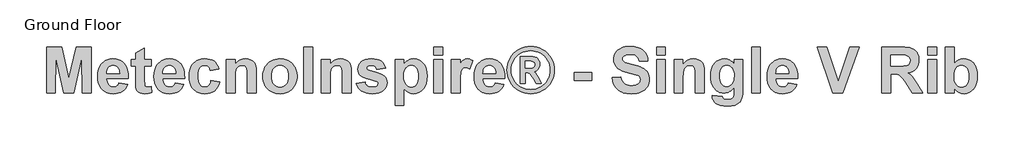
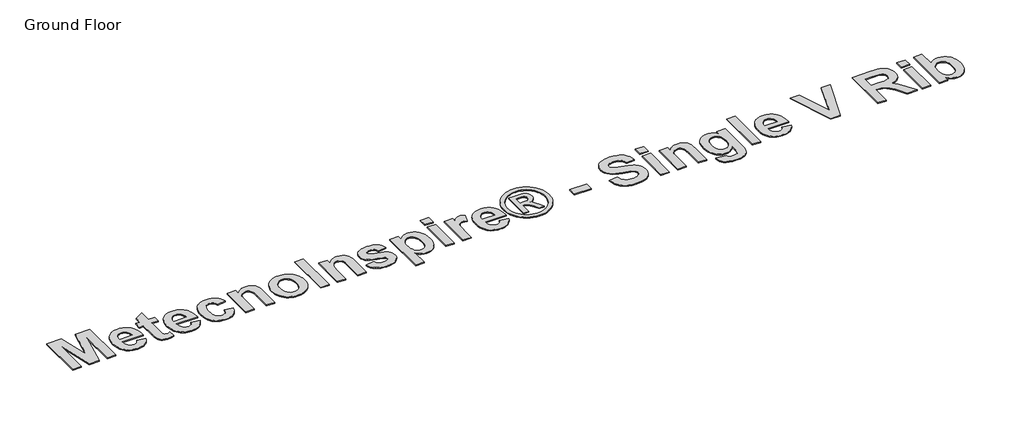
# One storey, part 11 of 14: 1 proxy.
"""IFC4 building model written with IfcOpenShell, lengths in millimetres."""

from ifc_helpers import new_model, si_unit, origin, origin_with_axes, place, context, project, spatial, polyline, outline, extrude, element, save

model = new_model("IFC4")

# Units and contexts
model_context = context("Model", 3, world=origin())
ifc_project = project(units=[si_unit("LENGTHUNIT", "METRE", prefix="MILLI")], contexts=[model_context])

# Site, building, storey
site = spatial("IfcSite", under=ifc_project)
building = spatial("IfcBuilding", under=site)
storey = spatial("IfcBuildingStorey", under=building, Name="Ground Floor", Elevation=0.0)

# Proxy
placement = place(None, origin())
element("IfcBuildingElementProxy", 1, Name="900mm Arial", ObjectType="900mm Arial", at=placement, inside=storey, context=model_context, shape_type="SweptSolid", body=[
    extrude(outline(polyline([(-961.6806462, -29419.7488861), (-961.6806462, -28497.7851027), (-660.7619114, -28497.7851027), (-515.3331003, -29126.6046475), (-369.9042893, -28497.7851027), (-68.9855544, -28497.7851027), (-68.9855544, -29419.7488861), (-244.5977036, -29419.7488861), (-251.9148765, -28693.9768007), (-412.4353566, -29419.7488861), (-618.0021824, -29419.7488861), (-778.7513241, -28693.9768007), (-786.068497, -29419.7488861), (-961.6806462, -29419.7488861)])), origin_with_axes(), (0.0, 0.0, 1.0), 20.0),
    extrude(outline(polyline([(487.1195848, -29214.8680454), (662.731734, -29244.1367369), (643.7528168, -29287.889715), (619.972005, -29326.0833567), (591.3892984, -29358.7176619), (558.0046971, -29385.7926307), (519.975406, -29407.0510187), (477.45863, -29422.2355816), (430.454369, -29431.3463193), (378.9626231, -29434.3832319), (337.8142441, -29432.5932399), (299.431242, -29427.2232639), (263.8136168, -29418.2733039), (230.9613684, -29405.7433599), (200.8744969, -29389.6334319), (173.5530023, -29369.9435199), (148.9968845, -29346.6736239), (127.2061436, -29319.8237439), (98.9950122, -29270.961607), (78.844204, -29216.0685191), (66.7537191, -29155.14448), (62.7235575, -29088.1894898), (68.0685237, -29009.2440543), (84.103422, -28939.330754), (96.1295958, -28907.7611545), (110.8282527, -28878.449589), (128.1993926, -28851.3960572), (148.2430156, -28826.6005592), (193.8324326, -28785.1842174), (218.7494071, -28768.9135117), (245.0812255, -28755.6011161), (272.8278879, -28745.2470306), (301.9893943, -28737.8512553), (364.556939, -28731.934635), (400.288895, -28733.4530913), (434.0843727, -28738.0084602), (465.9433721, -28745.6007416), (495.865893, -28756.2299356), (523.8519356, -28769.8960422), (549.9014998, -28786.5990614), (574.0145856, -28806.3389931), (596.1911931, -28829.1158374), (616.0168729, -28855.0296337), (633.0771759, -28884.1804216), (647.3721021, -28916.568201), (658.9016513, -28952.1929719), (667.6658237, -28991.0547344), (673.6646193, -29033.1534883), (677.3660798, -29127.0619708), (238.3357067, -29127.0619708), (241.6084266, -29166.3631923), (249.5972931, -29201.0340154), (262.3023062, -29231.07444), (279.7234659, -29256.4844662), (300.7174638, -29276.6924397), (324.1409919, -29291.1267065), (349.99405, -29299.7872666), (378.2766381, -29302.67412), (415.1483296, -29297.4720674), (445.7318257, -29281.8659096), (458.608335, -29269.8754642), (469.7984646, -29254.7123383), (487.1195848, -29214.8680454)]), holes=[polyline([(501.7539306, -29024.6215504), (498.6241242, -28987.5426343), (491.0639983, -28955.1941561), (479.0735529, -28927.5761159), (462.652788, -28904.6885136), (443.0164685, -28886.7314282), (421.3793597, -28873.9049386), (397.7414613, -28866.2090449), (372.1027735, -28863.6437469), (344.8634542, -28866.3448127), (320.0822476, -28874.44801), (297.7591537, -28887.9533389), (277.8941726, -28906.8607993), (261.7163607, -28930.512989), (250.2261127, -28958.0238441), (243.4234285, -28989.3933645), (241.3083082, -29024.6215504), (501.7539306, -29024.6215504)])]), origin_with_axes(), (0.0, 0.0, 1.0), 20.0),
    extrude(outline(polyline([(1131.0307986, -28746.5689808), (1131.0307986, -28878.2780927), (999.3216867, -28878.2780927), (999.3216867, -29167.07776), (1000.3220814, -29236.3908234), (1003.3232656, -29269.1751879), (1009.8687054, -29282.4375637), (1021.501867, -29293.1846614), (1037.2223556, -29300.3017553), (1056.0297765, -29302.67412), (1090.7863477, -29298.4438794), (1138.3479715, -29285.7531577), (1145.6651444, -29410.60242), (1112.8379059, -29421.0065252), (1077.9241298, -29428.4380289), (1001.8369649, -29434.3832319), (955.0756569, -29430.2673222), (913.1162436, -29417.9195929), (878.8455785, -29399.0550066), (855.1505147, -29375.3885255), (839.5157742, -29344.6906987), (829.4260788, -29304.7320749), (825.1386728, -29256.9989549), (823.7095375, -29176.910211), (823.7095375, -28878.2780927), (735.9034629, -28878.2780927), (735.9034629, -28746.5689808), (823.7095375, -28746.5689808), (823.7095375, -28614.8598689), (999.3216867, -28512.4194485), (999.3216867, -28746.5689808), (1131.0307986, -28746.5689808)])), origin_with_axes(), (0.0, 0.0, 1.0), 20.0),
    extrude(outline(polyline([(1613.9642089, -29214.8680454), (1789.5763582, -29244.1367369), (1770.597441, -29287.889715), (1746.8166291, -29326.0833567), (1718.2339225, -29358.7176619), (1684.8493213, -29385.7926307), (1646.8200302, -29407.0510187), (1604.3032541, -29422.2355816), (1557.2989932, -29431.3463193), (1505.8072472, -29434.3832319), (1464.6588683, -29432.5932399), (1426.2758662, -29427.2232639), (1390.658241, -29418.2733039), (1357.8059926, -29405.7433599), (1327.7191211, -29389.6334319), (1300.3976264, -29369.9435199), (1275.8415086, -29346.6736239), (1254.0507677, -29319.8237439), (1225.8396363, -29270.961607), (1205.6888282, -29216.0685191), (1193.5983433, -29155.14448), (1189.5681817, -29088.1894898), (1194.9131478, -29009.2440543), (1210.9480462, -28939.330754), (1222.97422, -28907.7611545), (1237.6728768, -28878.449589), (1255.0440168, -28851.3960572), (1275.0876397, -28826.6005592), (1320.6770567, -28785.1842174), (1345.5940312, -28768.9135117), (1371.9258496, -28755.6011161), (1399.672512, -28745.2470306), (1428.8340184, -28737.8512553), (1491.4015631, -28731.934635), (1527.1335192, -28733.4530913), (1560.9289969, -28738.0084602), (1592.7879962, -28745.6007416), (1622.7105172, -28756.2299356), (1650.6965597, -28769.8960422), (1676.7461239, -28786.5990614), (1700.8592098, -28806.3389931), (1723.0358172, -28829.1158374), (1742.8614971, -28855.0296337), (1759.9218001, -28884.1804216), (1774.2167262, -28916.568201), (1785.7462755, -28952.1929719), (1794.5104479, -28991.0547344), (1800.5092434, -29033.1534883), (1804.2107039, -29127.0619708), (1365.1803309, -29127.0619708), (1368.4530508, -29166.3631923), (1376.4419173, -29201.0340154), (1389.1469304, -29231.07444), (1406.56809, -29256.4844662), (1427.562088, -29276.6924397), (1450.985616, -29291.1267065), (1476.8386741, -29299.7872666), (1505.1212623, -29302.67412), (1541.9929538, -29297.4720674), (1572.5764498, -29281.8659096), (1585.4529591, -29269.8754642), (1596.6430888, -29254.7123383), (1613.9642089, -29214.8680454)]), holes=[polyline([(1628.5985547, -29024.6215504), (1625.4687483, -28987.5426343), (1617.9086225, -28955.1941561), (1605.918177, -28927.5761159), (1589.4974121, -28904.6885136), (1569.8610927, -28886.7314282), (1548.2239838, -28873.9049386), (1524.5860855, -28866.2090449), (1498.9473977, -28863.6437469), (1471.7080783, -28866.3448127), (1446.9268717, -28874.44801), (1424.6037779, -28887.9533389), (1404.7387968, -28906.8607993), (1388.5609849, -28930.512989), (1377.0707368, -28958.0238441), (1370.2680527, -28989.3933645), (1368.1529324, -29024.6215504), (1628.5985547, -29024.6215504)])]), origin_with_axes(), (0.0, 0.0, 1.0), 20.0),
    extrude(outline(polyline([(2492.024955, -28936.8154758), (2316.4128058, -28966.0841673), (2310.9892372, -28942.1675876), (2302.950351, -28921.4093969), (2292.2961471, -28903.8095954), (2279.0266256, -28889.3681829), (2263.3561567, -28878.1137421), (2245.4991108, -28870.0748559), (2225.4554878, -28865.2515242), (2203.2252878, -28863.6437469), (2173.8136827, -28866.6592225), (2147.5461753, -28875.7056491), (2124.4227657, -28890.7830268), (2104.4434538, -28911.8913556), (2088.3370987, -28940.059613), (2076.8325593, -28976.3167763), (2069.9298356, -29020.6628455), (2067.6289278, -29073.0978208), (2070.0227294, -29131.3636681), (2077.2041345, -29180.3973012), (2089.1731428, -29220.1987202), (2105.9297546, -29250.7679248), (2126.7165279, -29273.4768852), (2150.7760212, -29289.6975712), (2178.1082344, -29299.4299828), (2208.7131674, -29302.67412), (2231.7436833, -29300.8233897), (2252.587622, -29295.271199), (2271.2449837, -29286.0175477), (2287.7157684, -29273.062436), (2301.957102, -29255.5769652), (2313.9261103, -29232.732237), (2323.6227935, -29204.5282513), (2331.0471516, -29170.9650081), (2506.6593008, -29200.2336996), (2490.4743432, -29254.6480273), (2468.2155605, -29301.9595523), (2439.8829526, -29342.1682748), (2405.4765195, -29375.2741947), (2364.8533478, -29401.1343985), (2317.8705238, -29419.6059726), (2264.5280477, -29430.6889171), (2204.8259193, -29434.3832319), (2136.9920109, -29428.5666511), (2105.7922003, -29421.2959251), (2076.4038187, -29411.1169087), (2048.8268661, -29398.029602), (2023.0613425, -29382.0340048), (1999.107248, -29363.1301172), (1976.9645825, -29341.3179393), (1957.0549409, -29316.9368906), (1939.7999183, -29290.3263907), (1925.1995145, -29261.4864398), (1913.2537295, -29230.4170378), (1897.3260163, -29161.5898803), (1892.0167785, -29083.8449184), (1897.2902879, -29005.2210383), (1913.110816, -28935.8150811), (1924.9762121, -28904.5688235), (1939.4783628, -28875.6270467), (1956.6172682, -28848.9897506), (1976.3929284, -28824.6569352), (1998.4194766, -28802.9251461), (2022.3110465, -28784.0909289), (2048.0676379, -28768.1542835), (2075.689251, -28755.1152101), (2105.1758857, -28744.9737085), (2136.527542, -28737.7297788), (2204.8259193, -28731.934635), (2260.6908193, -28735.1001698), (2310.5247683, -28744.596774), (2354.3277661, -28760.4244478), (2392.0998128, -28782.5831911), (2424.4125626, -28811.2159174), (2451.8376696, -28846.4655403), (2474.3751337, -28888.3320598), (2492.024955, -28936.8154758)])), origin_with_axes(), (0.0, 0.0, 1.0), 20.0),
    extrude(outline(polyline([(3238.3765892, -29419.7488861), (3062.76444, -29419.7488861), (3062.76444, -29073.7838057), (3060.0205002, -28983.2337913), (3051.7886807, -28931.5562578), (3037.3258311, -28902.9163858), (3015.8888012, -28881.4793558), (2988.5065683, -28868.1026492), (2956.2081099, -28863.6437469), (2934.3780677, -28865.2372328), (2913.7056252, -28870.0176905), (2894.1907823, -28877.98512), (2875.833539, -28889.1395212), (2859.4556481, -28902.9306771), (2845.8788625, -28918.8083706), (2835.1031821, -28936.7726017), (2827.128607, -28956.8233704), (2817.2675732, -29016.8756369), (2813.9805619, -29112.6562867), (2813.9805619, -29419.7488861), (2638.3684127, -29419.7488861), (2638.3684127, -28746.5689808), (2813.9805619, -28746.5689808), (2813.9805619, -28843.5215215), (2835.5212042, -28817.368345), (2858.4123793, -28794.7022587), (2882.6540873, -28775.5232626), (2908.2463282, -28759.8313567), (2935.189102, -28747.6265409), (2963.4824087, -28738.9088154), (2993.1262482, -28733.6781801), (3024.1206207, -28731.934635), (3077.5131166, -28737.2510185), (3126.1037178, -28753.2001687), (3166.6911611, -28777.3811385), (3196.0741835, -28807.3929804), (3216.2249916, -28842.5211268), (3229.1157923, -28882.05101), (3236.06139, -28932.8424796), (3238.3765892, -29001.7553851), (3238.3765892, -29419.7488861)])), origin_with_axes(), (0.0, 0.0, 1.0), 20.0),
    extrude(outline(polyline([(3370.0857011, -29073.5551441), (3372.7939126, -29029.6592524), (3380.9185469, -28986.4636371), (3394.4596042, -28943.9682981), (3413.4170843, -28902.1732354), (3437.333664, -28863.179278), (3465.75202, -28829.0872547), (3498.6721523, -28799.8971656), (3536.0940609, -28775.6090107), (3576.9244573, -28756.5014713), (3620.0700529, -28742.8532289), (3665.5308477, -28734.6642835), (3713.3068417, -28731.934635), (3750.2946504, -28733.481674), (3785.5710696, -28738.122791), (3819.1360992, -28745.857986), (3850.9897393, -28756.6872589), (3881.1319898, -28770.6106099), (3909.5628508, -28787.6280388), (3936.2823221, -28807.7395457), (3961.290404, -28830.9451306), (3983.9332669, -28856.5159345), (4003.5570813, -28883.7230983), (4020.1618474, -28912.5666221), (4033.7475652, -28943.0465058), (4044.3142345, -28975.1627495), (4051.8618555, -29008.9153531), (4057.8999522, -29081.3296402), (4056.3743503, -29118.6425773), (4051.7975444, -29154.3227272), (4044.1695345, -29188.37009), (4033.4903208, -29220.7846656), (4019.7599031, -29251.5664542), (4002.9782815, -29280.7154557), (3983.145456, -29308.23167), (3960.2614265, -29334.1150972), (3935.0657707, -29357.6154413), (3908.298066, -29377.9824061), (3879.9583124, -29395.2159918), (3850.04651, -29409.3161982), (3818.5626587, -29420.2830255), (3785.5067585, -29428.1164735), (3750.8788095, -29432.8165423), (3714.6788116, -29434.3832319), (3669.368076, -29431.7750599), (3625.1291919, -29423.950544), (3581.9621593, -29410.9096841), (3539.8669782, -29392.6524803), (3500.7944183, -29369.3504288), (3466.6952494, -29341.1750257), (3437.5694713, -29308.1262713), (3413.4170843, -29270.2041653), (3394.4596042, -29227.6445152), (3380.9185469, -29180.6831283), (3372.7939126, -29129.3200046), (3370.0857011, -29073.5551441)]), holes=[polyline([(3545.6978503, -29083.1589335), (3548.7347629, -29133.2143984), (3557.8455006, -29177.0531246), (3573.0300635, -29214.6751121), (3594.2884515, -29246.080361), (3620.0057418, -29270.8401305), (3648.5670113, -29288.5256802), (3679.9722602, -29299.13701), (3714.2214883, -29302.67412), (3748.4564251, -29299.13701), (3779.8187999, -29288.5256802), (3808.3086127, -29270.8401305), (3833.9258635, -29246.080361), (3855.084212, -29214.589364), (3870.1973181, -29176.7101321), (3879.2651818, -29132.4426653), (3882.287803, -29081.7869636), (3879.2651818, -29032.3317355), (3870.1973181, -28988.9217499), (3855.084212, -28951.5570067), (3833.9258635, -28920.237506), (3808.3086127, -28895.4777364), (3779.8187999, -28877.7921867), (3748.4564251, -28867.1808569), (3714.2214883, -28863.6437469), (3679.9722602, -28867.1808569), (3648.5670113, -28877.7921867), (3620.0057418, -28895.4777364), (3594.2884515, -28920.237506), (3573.0300635, -28951.6427548), (3557.8455006, -28989.2647424), (3548.7347629, -29033.1034686), (3545.6978503, -29083.1589335)])]), origin_with_axes(), (0.0, 0.0, 1.0), 20.0),
    extrude(outline(polyline([(4189.6090641, -29419.7488861), (4189.6090641, -28497.7851027), (4365.2212134, -28497.7851027), (4365.2212134, -29419.7488861), (4189.6090641, -29419.7488861)])), origin_with_axes(), (0.0, 0.0, 1.0), 20.0),
    extrude(outline(polyline([(5140.8415391, -29419.7488861), (4965.2293898, -29419.7488861), (4965.2293898, -29073.7838057), (4962.48545, -28983.2337913), (4954.2536305, -28931.5562578), (4939.790781, -28902.9163858), (4918.3537511, -28881.4793558), (4890.9715182, -28868.1026492), (4858.6730597, -28863.6437469), (4836.8430176, -28865.2372328), (4816.170575, -28870.0176905), (4796.6557321, -28877.98512), (4778.2984888, -28889.1395212), (4761.920598, -28902.9306771), (4748.3438123, -28918.8083706), (4737.5681319, -28936.7726017), (4729.5935568, -28956.8233704), (4719.732523, -29016.8756369), (4716.4455118, -29112.6562867), (4716.4455118, -29419.7488861), (4540.8333626, -29419.7488861), (4540.8333626, -28746.5689808), (4716.4455118, -28746.5689808), (4716.4455118, -28843.5215215), (4737.986154, -28817.368345), (4760.8773292, -28794.7022587), (4785.1190372, -28775.5232626), (4810.7112781, -28759.8313567), (4837.6540519, -28747.6265409), (4865.9473585, -28738.9088154), (4895.5911981, -28733.6781801), (4926.5855706, -28731.934635), (4979.9780664, -28737.2510185), (5028.5686676, -28753.2001687), (5069.156111, -28777.3811385), (5098.5391333, -28807.3929804), (5118.6899415, -28842.5211268), (5131.5807421, -28882.05101), (5138.5263398, -28932.8424796), (5140.8415391, -29001.7553851), (5140.8415391, -29419.7488861)])), origin_with_axes(), (0.0, 0.0, 1.0), 20.0),
    extrude(outline(polyline([(5243.2819594, -29229.5023911), (5418.8941087, -29200.2336996), (5425.8182693, -29223.871598), (5435.614992, -29244.4797294), (5448.2842767, -29262.0580939), (5463.8261234, -29276.6066916), (5482.4834851, -29288.0111915), (5504.4993149, -29296.1572629), (5529.8736126, -29301.0449057), (5558.6063784, -29302.67412), (5590.0330643, -29301.1163625), (5617.3152577, -29296.44309), (5640.4529587, -29288.6543024), (5659.4461672, -29277.7499999), (5676.5957912, -29257.3991128), (5682.3123325, -29231.1030227), (5679.2825656, -29212.9244213), (5670.1932649, -29198.1757447), (5649.4422199, -29186.1138426), (5612.7991901, -29175.0809178), (5518.4905497, -29152.1290044), (5443.1894092, -29130.1489031), (5386.8957686, -29109.1406137), (5349.6096279, -29089.1041364), (5315.8963255, -29059.2494994), (5291.8153952, -29024.1070617), (5277.366837, -28983.6768232), (5272.550651, -28937.958784), (5276.6808521, -28896.127993), (5289.0714554, -28857.7557094), (5309.7224609, -28822.8419333), (5338.6338686, -28791.3866647), (5376.2344191, -28765.3764017), (5422.952853, -28746.7976425), (5478.7891703, -28735.6503869), (5543.743371, -28731.934635), (5605.5820567, -28734.9358192), (5658.9316785, -28743.9393718), (5703.7922365, -28758.9452927), (5740.1637306, -28779.9535821), (5769.789706, -28806.849909), (5794.4137077, -28839.5199426), (5814.0357357, -28877.9636829), (5828.6557902, -28922.18113), (5653.0436409, -28951.4498216), (5640.1242576, -28913.8921451), (5619.2017164, -28886.2812506), (5605.4248518, -28876.3773427), (5589.0183782, -28869.3031228), (5548.316604, -28863.6437469), (5498.2968675, -28868.4456416), (5479.503738, -28874.44801), (5464.8551008, -28882.8513258), (5452.3358754, -28898.6289798), (5448.1628002, -28918.5225436), (5452.3358754, -28935.7293329), (5464.8551008, -28950.3065133), (5482.9693911, -28959.8960113), (5514.9034201, -28971.2862199), (5620.2306938, -28999.4687686), (5681.6906586, -29016.2896914), (5733.1038021, -29034.9684902), (5774.4701242, -29055.5051649), (5805.7896249, -29077.8997155), (5828.5986248, -29103.8956871), (5844.8907675, -29134.5506399), (5854.6660532, -29169.8645739), (5857.9244817, -29209.837489), (5853.2011894, -29254.2907434), (5839.0313127, -29295.4998606), (5815.4148513, -29333.4648406), (5782.3518055, -29368.1856835), (5740.0279627, -29397.1471109), (5688.6291106, -29417.8338448), (5628.1552492, -29430.2458851), (5558.6063784, -29434.3832319), (5494.8883798, -29430.9390158), (5438.1874356, -29420.6063673), (5388.5035459, -29403.3852866), (5345.8367106, -29379.2757736), (5310.0583077, -29349.2496404), (5281.0397148, -29314.2786989), (5258.7809321, -29274.3629491), (5243.2819594, -29229.5023911)])), origin_with_axes(), (0.0, 0.0, 1.0), 20.0),
    extrude(outline(polyline([(6018.9022852, -28746.5689808), (6194.5144344, -28746.5689808), (6194.5144344, -28843.5215215), (6211.3067745, -28819.7835837), (6230.8144717, -28798.4180105), (6253.0375261, -28779.424802), (6277.9759376, -28762.8039581), (6305.0008866, -28749.2986293), (6333.4835538, -28739.6519658), (6363.4239389, -28733.8639677), (6394.8220421, -28731.934635), (6448.6218415, -28737.6726134), (6498.2056918, -28754.8865484), (6543.5735928, -28783.5764401), (6584.7255446, -28823.7422886), (6603.0274089, -28847.8178596), (6618.8890246, -28874.1407459), (6643.2915104, -28933.5284645), (6657.9330018, -29001.9054443), (6662.8134989, -29079.2716854), (6657.7757969, -29158.8316491), (6642.6626908, -29228.9879024), (6631.3278612, -29260.5396377), (6617.4741806, -29289.7404453), (6601.101649, -29316.5903253), (6582.2102664, -29341.0892776), (6539.7720928, -29381.9053826), (6493.0608046, -29411.0597433), (6442.0764017, -29428.5523598), (6386.8188842, -29434.3832319), (6334.7411928, -29428.9525177), (6287.8083886, -29412.6603749), (6242.3047198, -29383.1630217), (6194.5144344, -29338.1166761), (6194.5144344, -29668.5327642), (6018.9022852, -29668.5327642), (6018.9022852, -28746.5689808)]), holes=[polyline([(6194.5144344, -29071.4971892), (6197.2655199, -29126.747561), (6205.5187764, -29174.280602), (6219.2742039, -29214.0963123), (6238.5318025, -29246.1946918), (6261.7481059, -29270.9044416), (6287.379648, -29288.5542629), (6315.4264289, -29299.1441557), (6345.8884484, -29302.67412), (6374.9213326, -29299.4371285), (6401.4246473, -29289.7261539), (6425.3983924, -29273.5411963), (6446.842568, -29250.8822557), (6464.499535, -29220.8346854), (6477.1116543, -29182.4838388), (6484.6789259, -29135.829716), (6487.2013497, -29080.8723169), (6484.6074691, -29029.3091143), (6476.8258272, -28984.8344228), (6463.8564241, -28947.4482426), (6445.6992598, -28917.1505737), (6423.6977214, -28893.741337), (6399.1951962, -28877.0204536), (6372.1916841, -28866.9879236), (6342.6871853, -28863.6437469), (6312.1394176, -28866.9236125), (6284.2927157, -28876.7632093), (6259.1470796, -28893.1625372), (6236.7025093, -28916.1215962), (6218.2452265, -28945.5117643), (6205.0614531, -28981.2044191), (6197.151189, -29023.1995607), (6194.5144344, -29071.4971892)])]), origin_with_axes(), (0.0, 0.0, 1.0), 20.0),
    extrude(outline(polyline([(6794.5226109, -28658.7629062), (6794.5226109, -28497.7851027), (6970.1347601, -28497.7851027), (6970.1347601, -28658.7629062), (6794.5226109, -28658.7629062)])), origin_with_axes(), (0.0, 0.0, 1.0), 20.0),
    extrude(outline(polyline([(6794.5226109, -29419.7488861), (6794.5226109, -28746.5689808), (6970.1347601, -28746.5689808), (6970.1347601, -29419.7488861), (6794.5226109, -29419.7488861)])), origin_with_axes(), (0.0, 0.0, 1.0), 20.0),
    extrude(outline(polyline([(7321.3590585, -29419.7488861), (7145.7469093, -29419.7488861), (7145.7469093, -28746.5689808), (7321.3590585, -28746.5689808), (7321.3590585, -28840.3202584), (7358.4594117, -28785.1842174), (7375.5089961, -28766.1695718), (7391.5581859, -28752.8571762), (7424.8284563, -28737.1652703), (7462.4432982, -28731.934635), (7490.0970668, -28734.2498343), (7517.2649294, -28741.195432), (7543.946886, -28752.7714281), (7570.1429366, -28768.9778228), (7518.9227264, -28936.1294908), (7476.6203206, -28914.6924609), (7456.6695915, -28909.3332034), (7437.519178, -28907.5467842), (7403.7630016, -28912.5487579), (7375.666201, -28927.5546789), (7363.7043383, -28939.5665613), (7353.0858628, -28955.594314), (7335.8790735, -28999.6974303), (7329.5265669, -29032.9105353), (7324.9890622, -29080.4149936), (7321.3590585, -29218.2979702), (7321.3590585, -29419.7488861)])), origin_with_axes(), (0.0, 0.0, 1.0), 20.0),
    extrude(outline(polyline([(8023.8076554, -29214.8680454), (8199.4198046, -29244.1367369), (8180.4408874, -29287.889715), (8156.6600756, -29326.0833567), (8128.077369, -29358.7176619), (8094.6927677, -29385.7926307), (8056.6634766, -29407.0510187), (8014.1467006, -29422.2355816), (7967.1424396, -29431.3463193), (7915.6506937, -29434.3832319), (7874.5023147, -29432.5932399), (7836.1193126, -29427.2232639), (7800.5016874, -29418.2733039), (7767.649439, -29405.7433599), (7737.5625675, -29389.6334319), (7710.2410729, -29369.9435199), (7685.6849551, -29346.6736239), (7663.8942141, -29319.8237439), (7635.6830828, -29270.961607), (7615.5322746, -29216.0685191), (7603.4417897, -29155.14448), (7599.4116281, -29088.1894898), (7604.7565942, -29009.2440543), (7620.7914926, -28939.330754), (7632.8176664, -28907.7611545), (7647.5163233, -28878.449589), (7664.8874632, -28851.3960572), (7684.9310862, -28826.6005592), (7730.5205032, -28785.1842174), (7755.4374776, -28768.9135117), (7781.7692961, -28755.6011161), (7809.5159585, -28745.2470306), (7838.6774649, -28737.8512553), (7901.2450096, -28731.934635), (7936.9769656, -28733.4530913), (7970.7724433, -28738.0084602), (8002.6314426, -28745.6007416), (8032.5539636, -28756.2299356), (8060.5400062, -28769.8960422), (8086.5895704, -28786.5990614), (8110.7026562, -28806.3389931), (8132.8792637, -28829.1158374), (8152.7049435, -28855.0296337), (8169.7652465, -28884.1804216), (8184.0601727, -28916.568201), (8195.5897219, -28952.1929719), (8204.3538943, -28991.0547344), (8210.3526899, -29033.1534883), (8214.0541504, -29127.0619708), (7775.0237773, -29127.0619708), (7778.2964972, -29166.3631923), (7786.2853637, -29201.0340154), (7798.9903768, -29231.07444), (7816.4115365, -29256.4844662), (7837.4055344, -29276.6924397), (7860.8290625, -29291.1267065), (7886.6821206, -29299.7872666), (7914.9647087, -29302.67412), (7951.8364002, -29297.4720674), (7982.4198963, -29281.8659096), (7995.2964056, -29269.8754642), (8006.4865352, -29254.7123383), (8023.8076554, -29214.8680454)]), holes=[polyline([(8038.4420012, -29024.6215504), (8035.3121948, -28987.5426343), (8027.7520689, -28955.1941561), (8015.7616235, -28927.5761159), (7999.3408586, -28904.6885136), (7979.7045391, -28886.7314282), (7958.0674303, -28873.9049386), (7934.4295319, -28866.2090449), (7908.7908441, -28863.6437469), (7881.5515247, -28866.3448127), (7856.7703181, -28874.44801), (7834.4472243, -28887.9533389), (7814.5822432, -28906.8607993), (7798.4044313, -28930.512989), (7786.9141833, -28958.0238441), (7780.1114991, -28989.3933645), (7777.9963788, -29024.6215504), (8038.4420012, -29024.6215504)])]), origin_with_axes(), (0.0, 0.0, 1.0), 20.0),
    extrude(outline(polyline([(8733.5734251, -28483.150757), (8794.1187433, -28486.973694), (8853.4207138, -28498.442505), (8911.4793366, -28517.55719), (8968.2946116, -28544.3177491), (9021.4798828, -28578.2168391), (9068.6484944, -28618.747117), (9109.8004462, -28665.9085828), (9144.9357382, -28719.7012366), (9173.0468301, -28777.4740323), (9193.1261815, -28836.5759238), (9205.1737923, -28897.0069112), (9209.1896626, -28958.7669944), (9205.2523948, -29020.1340655), (9193.4405913, -29080.0720012), (9173.7542521, -29138.5808015), (9146.1933773, -29195.6604666), (9111.5868653, -29248.9171946), (9070.7636146, -29295.9571839), (9023.7236253, -29336.7804346), (8970.4668973, -29371.3869466), (8913.3872322, -29398.9478214), (8854.8784319, -29418.6341606), (8794.9404962, -29430.4459641), (8733.5734251, -29434.3832319), (8672.2063541, -29430.4459641), (8612.2684184, -29418.6341606), (8553.7596181, -29398.9478214), (8496.679953, -29371.3869466), (8443.423225, -29336.7804346), (8396.3832356, -29295.9571839), (8355.559985, -29248.9171946), (8320.953473, -29195.6604666), (8293.3925982, -29138.5808015), (8273.706259, -29080.0720012), (8261.8944555, -29020.1340655), (8257.9571877, -28958.7669944), (8261.9730579, -28897.0069112), (8274.0206688, -28836.5759238), (8294.1000201, -28777.4740323), (8322.2111121, -28719.7012366), (8357.3464041, -28665.9085828), (8398.4983559, -28618.747117), (8445.6669675, -28578.2168391), (8498.8522387, -28544.3177491), (8555.6675137, -28517.55719), (8613.7261365, -28498.442505), (8673.0281069, -28486.973694), (8733.5734251, -28483.150757)]), holes=[polyline([(8733.3447635, -28570.9568316), (8684.0181576, -28574.0652009), (8635.7348205, -28583.3903089), (8588.4947522, -28598.9321556), (8542.2979527, -28620.690741), (8499.045172, -28648.2659072), (8460.63716, -28681.2574963), (8427.0739168, -28719.6655082), (8398.3554424, -28763.4899431), (8375.3463636, -28810.5799522), (8358.9113073, -28858.7846868), (8349.0502735, -28908.104147), (8345.7632623, -28958.5383328), (8348.9716711, -29008.5937977), (8358.5968975, -29057.4630803), (8374.6389416, -29105.1461805), (8397.0978033, -29151.6430984), (8425.3089347, -29195.031647), (8458.6077879, -29233.3896392), (8496.9943628, -29266.7170751), (8540.4686595, -29295.0139546), (8587.0370342, -29317.5728558), (8634.7058431, -29333.6863566), (8683.4750862, -29343.3544571), (8733.3447635, -29346.5771573), (8783.3930827, -29343.3544571), (8832.2409282, -29333.6863566), (8879.8883001, -29317.5728558), (8926.3351983, -29295.0139546), (8969.6808728, -29266.7170751), (9008.0245737, -29233.3896392), (9041.3663009, -29195.031647), (9069.7060545, -29151.6430984), (9092.3149754, -29105.1461805), (9108.4642046, -29057.4630803), (9118.1537422, -29008.5937977), (9121.383588, -28958.5383328), (9118.0965767, -28908.104147), (9108.235543, -28858.7846868), (9091.8004867, -28810.5799522), (9068.7914079, -28763.4899431), (9040.0514964, -28719.6655082), (9006.4239421, -28681.2574963), (8967.908745, -28648.2659072), (8924.5059051, -28620.690741), (8878.1733377, -28598.9321556), (8830.8689583, -28583.3903089), (8782.5927669, -28574.0652009), (8733.3447635, -28570.9568316)])]), origin_with_axes(), (0.0, 0.0, 1.0), 20.0),
    extrude(outline(polyline([(8521.3754115, -29229.5023911), (8521.3754115, -28688.0315977), (8620.3859071, -28688.0315977), (8776.1044925, -28689.4035676), (8819.8074509, -28697.0923157), (8852.5918153, -28711.0120938), (8877.658849, -28732.5348719), (8898.209815, -28763.0326198), (8911.9295142, -28799.9043113), (8916.5027472, -28840.54892), (8914.3804813, -28868.7600514), (8908.0136834, -28894.8560625), (8897.4023536, -28918.8369533), (8882.5464918, -28940.7027239), (8863.846256, -28959.5387275), (8841.7018041, -28974.4303176), (8816.1131361, -28985.3774943), (8787.0802519, -28992.3802574), (8807.3453908, -29002.155543), (8822.4084772, -29012.7311445), (8856.5933943, -29054.3475652), (8893.8652436, -29120.2021212), (8945.7714388, -29229.5023911), (8843.3310184, -29229.5023911), (8792.7967932, -29142.8396248), (8747.8361957, -29071.4971892), (8715.3948238, -29032.6247082), (8701.4250259, -29022.7208004), (8685.6973916, -29015.6465805), (8648.9686137, -29009.9872046), (8623.8158319, -29009.9872046), (8623.8158319, -29229.5023911), (8521.3754115, -29229.5023911)]), holes=[polyline([(8623.8158319, -28922.18113), (8663.8316211, -28922.18113), (8732.9446056, -28920.3804195), (8769.7019663, -28914.978288), (8788.1092293, -28905.0315061), (8802.1719209, -28889.5968445), (8811.0897254, -28870.1891868), (8814.0623269, -28848.3234162), (8811.1468908, -28827.1436306), (8802.4005826, -28808.4219578), (8788.2807255, -28793.4160369), (8769.2446429, -28783.3835069), (8732.1442898, -28777.724131), (8663.8316211, -28775.8376723), (8623.8158319, -28775.8376723), (8623.8158319, -28922.18113)])]), origin_with_axes(), (0.0, 0.0, 1.0), 20.0),
    extrude(outline(polyline([(9604.3169983, -29170.9650081), (9604.3169983, -29009.9872046), (9955.5412968, -29009.9872046), (9955.5412968, -29170.9650081), (9604.3169983, -29170.9650081)])), origin_with_axes(), (0.0, 0.0, 1.0), 20.0),
    extrude(outline(polyline([(10365.3029783, -29112.427625), (10540.9151275, -29097.7932792), (10551.5478944, -29140.0671023), (10566.5252326, -29176.3385569), (10585.8471422, -29206.6076432), (10609.5136233, -29230.8743611), (10637.5961325, -29249.481703), (10670.1661267, -29262.7726616), (10707.2236057, -29270.7472367), (10748.7685697, -29273.4054285), (10792.428654, -29271.0545008), (10830.3436143, -29264.001718), (10862.5134506, -29252.2470799), (10888.9381628, -29235.7905866), (10909.5462942, -29216.1899956), (10924.2663881, -29195.0030643), (10933.0984445, -29172.2297928), (10936.0424632, -29147.8701812), (10931.1548204, -29118.0012528), (10916.4918919, -29092.8770537), (10889.5955651, -29071.6401027), (10848.007727, -29053.4329186), (10695.7190663, -29014.331776), (10625.034033, -28995.2528194), (10565.7249168, -28973.9158289), (10517.7917179, -28950.3208046), (10481.2344362, -28924.4677465), (10443.3194759, -28884.437666), (10416.2373614, -28840.263093), (10399.9880927, -28791.9440275), (10394.5716698, -28739.4804696), (10397.0583653, -28704.95256), (10404.5184517, -28671.5679587), (10416.9519291, -28639.3266657), (10434.3587974, -28608.228681), (10456.4532296, -28579.5173522), (10482.9493986, -28554.4360272), (10513.8473044, -28532.9847059), (10549.146947, -28515.1633883), (10588.5767907, -28501.1578621), (10631.8652998, -28491.1539148), (10679.0124743, -28485.1515464), (10730.0183142, -28483.150757), (10811.2146379, -28488.1384393), (10881.706738, -28503.1014862), (10912.9387042, -28514.3237713), (10941.4946145, -28528.0398977), (10967.3744689, -28544.2498651), (10990.5782674, -28562.9536737), (11029.1149015, -28606.1850174), (11057.2617218, -28656.0761318), (11075.0187283, -28712.6270167), (11082.3859209, -28775.8376723), (10906.7737717, -28775.8376723), (10898.834925, -28743.2033671), (10887.3661139, -28715.4995787), (10872.3673387, -28692.7263073), (10853.8385991, -28674.8835527), (10831.0081622, -28661.4282436), (10803.1042949, -28651.8173085), (10770.1269972, -28646.0507474), (10732.0762691, -28644.1285604), (10692.4034724, -28646.1722239), (10657.3039087, -28652.3032145), (10626.7775781, -28662.5215321), (10600.8244805, -28676.8271767), (10587.4191911, -28688.2316767), (10577.8439844, -28701.4083044), (10572.0988604, -28716.3570599), (10570.183819, -28733.0779433), (10571.9273641, -28748.6126443), (10577.1579994, -28762.9754544), (10585.875725, -28776.1663735), (10598.0805407, -28788.1854016), (10622.1257426, -28802.826893), (10658.8187921, -28817.7113375), (10770.1484343, -28848.2090854), (10888.9667455, -28879.9358897), (10935.0206315, -28896.3566546), (10972.1710044, -28913.1489947), (11003.0974929, -28931.6920256), (11030.4797258, -28953.3648629), (11054.3177031, -28978.1675065), (11074.6114247, -29006.0999565), (11090.8178194, -29037.3265635), (11102.3938155, -29072.0116779), (11109.3394132, -29110.1552998), (11111.6546125, -29151.7574293), (11108.9178183, -29190.458414), (11100.7074358, -29227.9017596), (11087.0234651, -29264.0874661), (11067.865906, -29299.0155335), (11043.6992276, -29331.113913), (11014.9878988, -29358.8105557), (10981.7319197, -29382.1054616), (10943.9312903, -29400.9986306), (10901.3930772, -29415.6043937), (10853.9243472, -29426.0370816), (10801.5251004, -29432.2966943), (10744.1953367, -29434.3832319), (10662.1343861, -29429.2454904), (10590.1917136, -29413.8322659), (10558.0147317, -29402.2723475), (10528.3673193, -29388.1435583), (10501.2494764, -29371.4458984), (10476.6612031, -29352.1793678), (10454.5131784, -29330.4511515), (10434.7160812, -29306.3684348), (10417.2699117, -29279.9312176), (10402.1746698, -29251.1395), (10379.0369688, -29186.4925634), (10365.3029783, -29112.427625)])), origin_with_axes(), (0.0, 0.0, 1.0), 20.0),
    extrude(outline(polyline([(11257.9980701, -28658.7629062), (11257.9980701, -28497.7851027), (11433.6102194, -28497.7851027), (11433.6102194, -28658.7629062), (11257.9980701, -28658.7629062)])), origin_with_axes(), (0.0, 0.0, 1.0), 20.0),
    extrude(outline(polyline([(11257.9980701, -29419.7488861), (11257.9980701, -28746.5689808), (11433.6102194, -28746.5689808), (11433.6102194, -29419.7488861), (11257.9980701, -29419.7488861)])), origin_with_axes(), (0.0, 0.0, 1.0), 20.0),
    extrude(outline(polyline([(12209.2305451, -29419.7488861), (12033.6183959, -29419.7488861), (12033.6183959, -29073.7838057), (12030.874456, -28983.2337913), (12022.6426365, -28931.5562578), (12008.179787, -28902.9163858), (11986.7427571, -28881.4793558), (11959.3605242, -28868.1026492), (11927.0620657, -28863.6437469), (11905.2320236, -28865.2372328), (11884.559581, -28870.0176905), (11865.0447381, -28877.98512), (11846.6874948, -28889.1395212), (11830.309604, -28902.9306771), (11816.7328183, -28918.8083706), (11805.957138, -28936.7726017), (11797.9825628, -28956.8233704), (11788.1215291, -29016.8756369), (11784.8345178, -29112.6562867), (11784.8345178, -29419.7488861), (11609.2223686, -29419.7488861), (11609.2223686, -28746.5689808), (11784.8345178, -28746.5689808), (11784.8345178, -28843.5215215), (11806.37516, -28817.368345), (11829.2663352, -28794.7022587), (11853.5080432, -28775.5232626), (11879.1002841, -28759.8313567), (11906.0430579, -28747.6265409), (11934.3363646, -28738.9088154), (11963.9802041, -28733.6781801), (11994.9745766, -28731.934635), (12048.3670724, -28737.2510185), (12096.9576736, -28753.2001687), (12137.545117, -28777.3811385), (12166.9281393, -28807.3929804), (12187.0789475, -28842.5211268), (12199.9697481, -28882.05101), (12206.9153458, -28932.8424796), (12209.2305451, -29001.7553851), (12209.2305451, -29419.7488861)])), origin_with_axes(), (0.0, 0.0, 1.0), 20.0),
    extrude(outline(polyline([(12370.2083485, -29463.6519234), (12575.0891893, -29492.920615), (12582.9208509, -29518.7593817), (12596.8120463, -29534.9943591), (12627.2812115, -29547.3420883), (12671.1270834, -29551.457998), (12727.9495041, -29546.2559454), (12750.2725979, -29539.7533797), (12768.5369474, -29530.6497877), (12787.6301954, -29512.4140209), (12801.4642254, -29485.6034421), (12807.2950975, -29454.048134), (12809.2387216, -29403.7425704), (12809.2387216, -29305.6467215), (12763.949423, -29355.5664185), (12739.9220853, -29375.1777281), (12714.9729553, -29391.223345), (12689.102033, -29403.7032692), (12662.3093184, -29412.6175008), (12634.5948115, -29417.9660398), (12605.9585124, -29419.7488861), (12574.3353204, -29417.9588941), (12544.4056538, -29412.5889181), (12516.1695125, -29403.6389581), (12489.6268966, -29391.1090141), (12464.7778061, -29374.9990861), (12441.6222409, -29355.3091742), (12420.1602011, -29332.0392782), (12400.3916867, -29305.1893982), (12374.3814237, -29257.1418684), (12355.8026644, -29203.5492936), (12344.6554088, -29144.4116737), (12340.939657, -29079.7290087), (12345.8058628, -29000.1190252), (12360.4044802, -28930.4986976), (12371.3534432, -28899.4346548), (12384.7355091, -28870.868026), (12400.550678, -28844.7988112), (12418.7989497, -28821.2270104), (12460.1081064, -28782.1615962), (12506.1762837, -28754.2577289), (12557.0034817, -28737.5154085), (12612.5897003, -28731.934635), (12641.7726437, -28733.5888592), (12669.6407826, -28738.5515316), (12696.194117, -28746.8226523), (12721.432647, -28758.4022213), (12745.3563724, -28773.2902386), (12767.9652933, -28791.4867042), (12789.2594097, -28812.991618), (12809.2387216, -28837.8049802), (12809.2387216, -28746.5689808), (12984.8508708, -28746.5689808), (12984.8508708, -29344.5192024), (12980.0775588, -29447.4455288), (12974.1109188, -29487.7828735), (12965.7576228, -29520.7030058), (12942.8342921, -29572.8092799), (12928.5000648, -29594.1248333), (12912.2507961, -29612.2819976), (12872.0635106, -29641.865099), (12820.3288117, -29664.3025236), (12755.1888234, -29678.4509634), (12674.7856698, -29683.16711), (12597.7124015, -29679.6514371), (12532.7296181, -29669.1044183), (12479.8373196, -29651.5260538), (12439.035506, -29626.9163434), (12408.6235062, -29596.9045015), (12386.9006492, -29563.1197423), (12373.866935, -29525.5620659), (12369.5223636, -29484.2314722), (12370.2083485, -29463.6519234)]), holes=[polyline([(12516.5518062, -29073.0978208), (12519.0885214, -29125.1469294), (12526.698667, -29169.707369), (12539.3822431, -29206.7791394), (12557.1392495, -29236.3622407), (12578.6262992, -29258.9711616), (12602.5000049, -29275.1203908), (12628.7603666, -29284.8099284), (12657.4073842, -29288.0397742), (12688.0694827, -29284.7241803), (12716.2591771, -29274.7773984), (12741.9764673, -29258.1994286), (12765.2213534, -29234.9902708), (12784.478952, -29205.2785473), (12798.2343795, -29169.1928803), (12806.4876361, -29126.7332696), (12809.2387216, -29077.8997155), (12806.6019669, -29026.9867694), (12798.6917028, -28983.0908777), (12785.5079294, -28946.2120406), (12767.0506467, -28916.3502579), (12744.5632023, -28893.2911593), (12719.288944, -28876.8203747), (12691.2278718, -28866.9379039), (12660.3799857, -28863.6437469), (12630.4324549, -28866.8735928), (12603.2431553, -28876.5631303), (12578.8120868, -28892.7123595), (12557.1392495, -28915.3212804), (12539.3822431, -28944.5613893), (12526.698667, -28980.6041823), (12519.0885214, -29023.4496594), (12516.5518062, -29073.0978208)])]), origin_with_axes(), (0.0, 0.0, 1.0), 20.0),
    extrude(outline(polyline([(13160.46302, -29419.7488861), (13160.46302, -28497.7851027), (13336.0751692, -28497.7851027), (13336.0751692, -29419.7488861), (13160.46302, -29419.7488861)])), origin_with_axes(), (0.0, 0.0, 1.0), 20.0),
    extrude(outline(polyline([(13892.1803084, -29214.8680454), (14067.7924576, -29244.1367369), (14048.8135405, -29287.889715), (14025.0327286, -29326.0833567), (13996.450022, -29358.7176619), (13963.0654207, -29385.7926307), (13925.0361296, -29407.0510187), (13882.5193536, -29422.2355816), (13835.5150926, -29431.3463193), (13784.0233467, -29434.3832319), (13742.8749678, -29432.5932399), (13704.4919657, -29427.2232639), (13668.8743404, -29418.2733039), (13636.0220921, -29405.7433599), (13605.9352205, -29389.6334319), (13578.6137259, -29369.9435199), (13554.0576081, -29346.6736239), (13532.2668672, -29319.8237439), (13504.0557358, -29270.961607), (13483.9049276, -29216.0685191), (13471.8144428, -29155.14448), (13467.7842811, -29088.1894898), (13473.1292473, -29009.2440543), (13489.1641457, -28939.330754), (13501.1903194, -28907.7611545), (13515.8889763, -28878.449589), (13533.2601162, -28851.3960572), (13553.3037392, -28826.6005592), (13598.8931562, -28785.1842174), (13623.8101307, -28768.9135117), (13650.1419491, -28755.6011161), (13677.8886115, -28745.2470306), (13707.0501179, -28737.8512553), (13769.6176626, -28731.934635), (13805.3496187, -28733.4530913), (13839.1450963, -28738.0084602), (13871.0040957, -28745.6007416), (13900.9266166, -28756.2299356), (13928.9126592, -28769.8960422), (13954.9622234, -28786.5990614), (13979.0753092, -28806.3389931), (14001.2519167, -28829.1158374), (14021.0775966, -28855.0296337), (14038.1378995, -28884.1804216), (14052.4328257, -28916.568201), (14063.9623749, -28952.1929719), (14072.7265473, -28991.0547344), (14078.7253429, -29033.1534883), (14082.4268034, -29127.0619708), (13643.3964303, -29127.0619708), (13646.6691503, -29166.3631923), (13654.6580167, -29201.0340154), (13667.3630298, -29231.07444), (13684.7841895, -29256.4844662), (13705.7781875, -29276.6924397), (13729.2017155, -29291.1267065), (13755.0547736, -29299.7872666), (13783.3373618, -29302.67412), (13820.2090532, -29297.4720674), (13850.7925493, -29281.8659096), (13863.6690586, -29269.8754642), (13874.8591882, -29254.7123383), (13892.1803084, -29214.8680454)]), holes=[polyline([(13906.8146542, -29024.6215504), (13903.6848478, -28987.5426343), (13896.1247219, -28955.1941561), (13884.1342765, -28927.5761159), (13867.7135116, -28904.6885136), (13848.0771922, -28886.7314282), (13826.4400833, -28873.9049386), (13802.8021849, -28866.2090449), (13777.1634971, -28863.6437469), (13749.9241778, -28866.3448127), (13725.1429712, -28874.44801), (13702.8198773, -28887.9533389), (13682.9548963, -28906.8607993), (13666.7770843, -28930.512989), (13655.2868363, -28958.0238441), (13648.4841521, -28989.3933645), (13646.3690318, -29024.6215504), (13906.8146542, -29024.6215504)])]), origin_with_axes(), (0.0, 0.0, 1.0), 20.0),
    extrude(outline(polyline([(14788.3053251, -29419.7488861), (14477.5541391, -28497.7851027), (14662.7700778, -28497.7851027), (14894.6329935, -29185.5993538), (15127.1818942, -28497.7851027), (15311.7118479, -28497.7851027), (14984.497023, -29419.7488861), (14788.3053251, -29419.7488861)])), origin_with_axes(), (0.0, 0.0, 1.0), 20.0),
    extrude(outline(polyline([(15765.3765667, -29419.7488861), (15765.3765667, -28497.7851027), (16153.1867296, -28497.7851027), (16221.3564848, -28499.3428602), (16279.5222927, -28504.0161328), (16327.6841532, -28511.8049203), (16365.8420665, -28522.7092229), (16397.3402092, -28537.600813), (16425.5227579, -28557.3514633), (16450.3897126, -28581.9611736), (16471.9410733, -28611.4299441), (16489.3479417, -28644.4858443), (16501.781419, -28679.8569436), (16509.2415054, -28717.5432423), (16511.7282009, -28757.5447401), (16508.1339255, -28807.4072718), (16497.3510995, -28852.725153), (16479.3797227, -28893.498384), (16454.2197953, -28929.7269646), (16421.8998998, -28960.5391222), (16382.448619, -28985.0630845), (16335.865953, -29003.2988513), (16282.1519017, -29015.2464226), (16333.0862848, -29051.9466179), (16374.3025477, -29092.0767379), (16416.9479459, -29150.2139631), (16472.169735, -29240.9354738), (16584.8999297, -29419.7488861), (16379.7904273, -29419.7488861), (16246.2520222, -29209.1515041), (16181.7408535, -29128.2910272), (16141.4106545, -29084.1879109), (16112.3134592, -29062.4936366), (16081.5013015, -29048.8596856), (16040.5994484, -29041.6568435), (15981.2331668, -29039.2558962), (15940.9887159, -29039.2558962), (15940.9887159, -29419.7488861), (15765.3765667, -29419.7488861)]), holes=[polyline([(15940.9887159, -28878.2780927), (16085.7315421, -28878.2780927), (16199.9766203, -28875.619901), (16261.4580221, -28867.6453259), (16292.7275031, -28853.1824763), (16316.3368187, -28831.0594614), (16331.1712434, -28801.876518), (16336.1160517, -28766.2338829), (16334.4868374, -28745.4471096), (16329.5991946, -28726.7611651), (16321.4531232, -28710.1760496), (16310.0486233, -28695.6917631), (16295.6715219, -28683.4940931), (16278.607646, -28673.7688271), (16236.4195711, -28661.7355077), (16093.7346999, -28658.7629062), (15940.9887159, -28658.7629062), (15940.9887159, -28878.2780927)])]), origin_with_axes(), (0.0, 0.0, 1.0), 20.0),
    extrude(outline(polyline([(16687.3403501, -28658.7629062), (16687.3403501, -28497.7851027), (16862.9524993, -28497.7851027), (16862.9524993, -28658.7629062), (16687.3403501, -28658.7629062)])), origin_with_axes(), (0.0, 0.0, 1.0), 20.0),
    extrude(outline(polyline([(16687.3403501, -29419.7488861), (16687.3403501, -28746.5689808), (16862.9524993, -28746.5689808), (16862.9524993, -29419.7488861), (16687.3403501, -29419.7488861)])), origin_with_axes(), (0.0, 0.0, 1.0), 20.0),
    extrude(outline(polyline([(17038.5646486, -29419.7488861), (17038.5646486, -28497.7851027), (17214.1767978, -28497.7851027), (17214.1767978, -28824.085281), (17256.2791246, -28783.7693734), (17302.0972032, -28754.9722965), (17351.6310337, -28737.6940504), (17404.8806161, -28731.934635), (17462.4176044, -28737.4939715), (17514.7525402, -28754.1719807), (17561.8854233, -28781.9686629), (17603.8162538, -28820.8840179), (17622.2520996, -28844.3325558), (17638.2298326, -28870.2034781), (17651.7494528, -28898.4967848), (17662.8109602, -28929.2124758), (17677.5596368, -28997.9110111), (17682.4758624, -29076.2990839), (17677.5882195, -29157.3453484), (17662.9252911, -29228.5305791), (17651.9280947, -29260.4253068), (17638.4870769, -29289.8547761), (17622.6022377, -29316.8189869), (17604.2735772, -29341.3179393), (17563.085897, -29382.0340048), (17517.7251416, -29411.1169087), (17468.1913111, -29428.5666511), (17414.4844055, -29434.3832319), (17387.137901, -29432.6253954), (17359.977184, -29427.3518861), (17333.0022547, -29418.5627038), (17306.213113, -29406.2578486), (17280.4386573, -29390.494486), (17256.5077862, -29371.3297812), (17234.4204997, -29348.7637343), (17214.1767978, -29322.7963454), (17214.1767978, -29419.7488861), (17038.5646486, -29419.7488861)]), holes=[polyline([(17214.1767978, -29070.3538809), (17216.2061699, -29120.6880272), (17222.2942864, -29163.9908277), (17232.4411473, -29200.2622823), (17246.6467524, -29229.5023911), (17271.1707147, -29261.5150225), (17299.4675942, -29284.3811878), (17331.537391, -29298.1008869), (17367.380105, -29302.67412), (17395.2410983, -29299.4299828), (17420.9726799, -29289.6975712), (17444.5748498, -29273.4768852), (17466.0476081, -29250.7679248), (17483.9046541, -29221.0990754), (17496.6596869, -29183.9987223), (17504.3127066, -29139.4668654), (17506.8637131, -29087.5035049), (17504.2984152, -29032.2031133), (17496.6025215, -28985.205998), (17483.7760319, -28946.512159), (17465.8189465, -28916.1215962), (17443.8459908, -28893.1625372), (17418.9718904, -28876.7632093), (17391.1966453, -28866.9236125), (17360.5202555, -28863.6437469), (17330.4012284, -28866.8450101), (17302.9261017, -28876.4487995), (17278.0948754, -28892.4551152), (17255.9075494, -28914.8639571), (17237.6503455, -28943.7896562), (17224.6094857, -28979.3465432), (17216.7849697, -29021.5346181), (17214.1767978, -29070.3538809)])]), origin_with_axes(), (0.0, 0.0, 1.0), 20.0),
])

save(model, "model.ifc")
